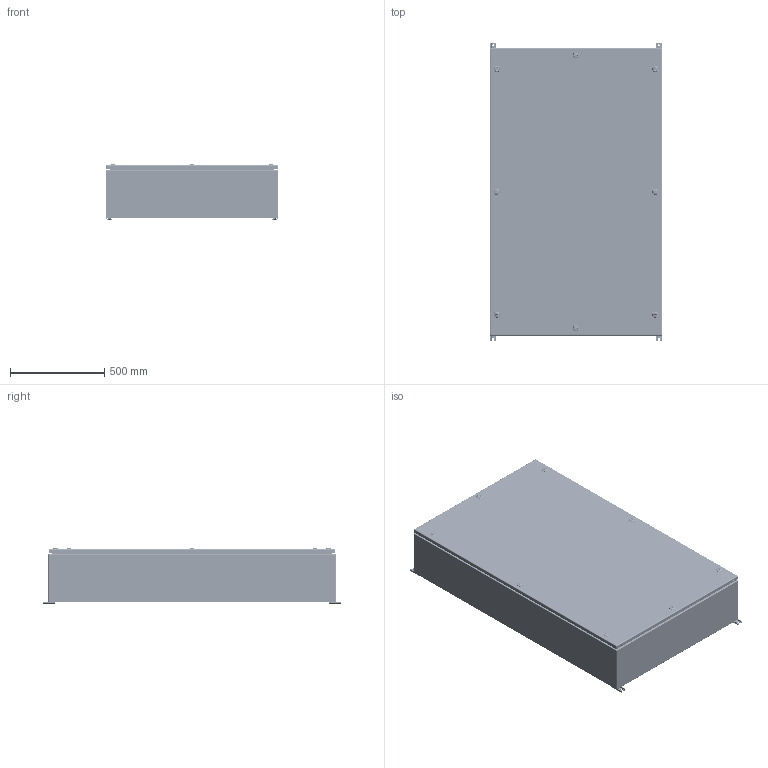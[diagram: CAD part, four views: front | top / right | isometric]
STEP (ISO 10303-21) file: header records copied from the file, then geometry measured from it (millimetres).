
FILE_DESCRIPTION(/* description */ ('5412ESQT 60" x 36" x 10" Assembly'),/* implementation_level */ '2;1');
FILE_NAME(/* name */ 'C:\Vault_Workspace\Inventor_Dwg\BoxCad\Result\5412ESQT603610TH\e-mail\3D\5412ESQT603610TH.stp',/* time_stamp */ '2023-07-07T14:37:46-04:00',/* author */ ('BoxCad'),/* organization */ (''),/* preprocessor_version */ 'ST-DEVELOPER v18.1',/* originating_system */ 'Autodesk Inventor 2020',/* authorisation */ '');
FILE_SCHEMA (('AUTOMOTIVE_DESIGN { 1 0 10303 214 3 1 1 }'));
Products named in the file (54): 5412ESQT603610TH; 5412ESQT603610THB; 5412ESQT603610THB-P; STK-Q-16005; 5412ESQT603610THI-B; 5412ESQT603610THI-TP; 5412ESQT603610THI-BT; 5412ESQT603610THI-LS; 5412ESQT603610THI-RS; 5412ESQT603610THBR; STK-A-70554; STK-Q-05021; STK-Q-07270; STK-A-70554TH-1; STK-Q-70554; 885ESMF3-Feet-A; 885ESMF3-Feet; STK-Q-06660; RIVET_NUT_M10_FH_CE; 5412ESQT603610THC; 5412ESQT603610THC-P; 5412ESQT603610THG; STK-Q-46515-1; STK-Q-46515-2; STK-Q-46515-3; STK-Q-16055; STK-Q-46515-4; STK-Q-46515-B; STK-Q-46515-A; STK-P-02400S; 5412ESQT603610THI-C; STK-Q-46020-60; STK-Q-46025-36-3; STK-Q-07250; STK-S-00100; STK-K-12500-1; STK-K-12500-2; STK-K-12500-3; STK-K-12500-4; STK-K-12500-5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
Assembly tree (164 placements, depth 5):
  5412ESQT603610TH
    5412ESQT603610THB
      5412ESQT603610THB-P
      STK-Q-16005  x8
      STK-P-02400S
      STK-Q-16055  x4
      5412ESQT603610THI-B
      5412ESQT603610THI-TP
      5412ESQT603610THI-BT
      5412ESQT603610THI-LS
      5412ESQT603610THI-RS
      5412ESQT603610THBR
        STK-A-70554
          STK-Q-70554
          STK-Q-05021
          STK-Q-07270
        STK-A-70554TH-1  x3
          STK-Q-70554
          STK-Q-07250
      885ESMF3-Feet-A  x2
      STK-Q-06660  x4
      RIVET_NUT_M10_FH_CE  x4
      885ESMF3-Feet  x2
    5412ESQT603610THC
      5412ESQT603610THC-P
      5412ESQT603610THG
      STK-Q-16055  x14
      STK-Q-46515-1
        STK-Q-46515-B
        STK-Q-46515-A
      STK-Q-46515-2
        STK-Q-46515-B
        STK-Q-46515-A
      STK-Q-46515-3
        STK-Q-46515-B
        STK-Q-46515-A
      STK-Q-46515-4
        STK-Q-46515-B
        STK-Q-46515-A
      STK-P-02400S
      5412ESQT603610THI-C
      STK-Q-46020-60  x2
      STK-Q-46025-36-3  x2
      STK-Q-07250  x10
      STK-S-00100  x2
      STK-K-12500-1
        STK-Q-78111
        STK-Q-78120
        STK-Q-78145
        STK-Q-03200
        STK-Q-78141
        STK-Q-90390
        STK-Q-78160
      STK-K-12500-2
        STK-Q-78111
        STK-Q-78120
        STK-Q-78145
        STK-Q-03200
        STK-Q-78141
        STK-Q-90390
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Bounding box: 914.4 x 1581.15 x 293.63 mm (x, y, z)
Volume: 82944386.3 mm3; surface area: 19957321.5 mm2
Topology: 145 solids, 145 shells, 28881 faces, 77646 edges, 49485 vertices
Faces by surface type: bspline 9702, plane 9304, cylinder 7454, torus 1520, cone 536, sphere 365
Full cylindrical faces by diameter (mm): 0.75 x26, 0.762 x26, 4.191 x170, 4.5 x18, 5.1 x274, 5.105 x52, 5.9 x64, 6.015 x170, 6.496 x8, 6.65 x8, 6.8 x120, 7.35 x14, 7.366 x4, 7.468 x8, 7.9 x18, 8 x4, 8.5 x4, 9.5 x1, 9.6 x8, 9.654 x4, 9.7 x36, 10 x8, 10.312 x6, 11.9 x72, 12.7 x30, 12.8 x8, 13 x8, 15.9 x8, 16 x8, 19 x4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
Entity records: 206042 total; most frequent: CARTESIAN_POINT 81081, ORIENTED_EDGE 27698, DIRECTION 22108, EDGE_CURVE 13849, VERTEX_POINT 8921, AXIS2_PLACEMENT_3D 7820, LINE 6468, VECTOR 6468
